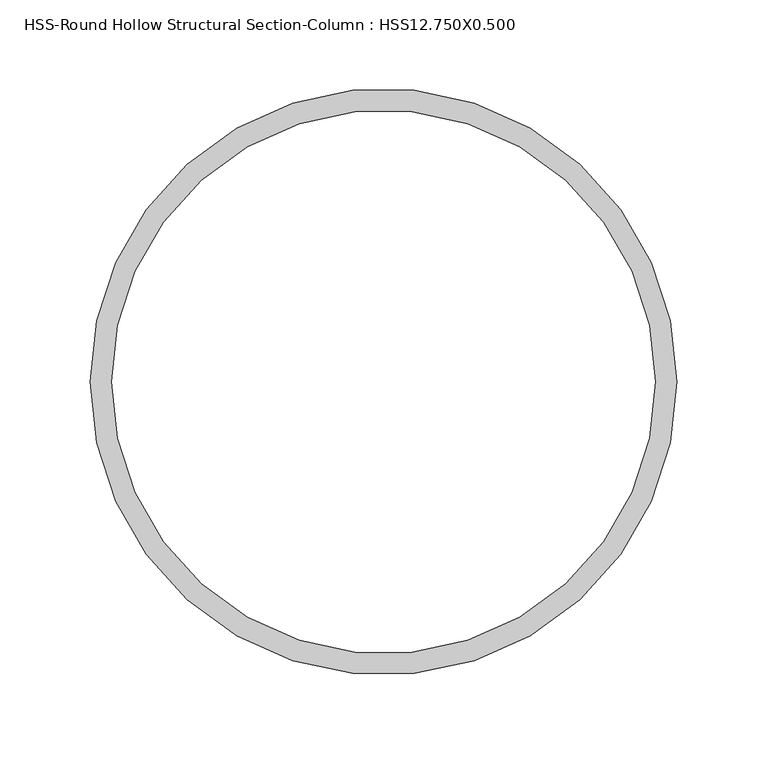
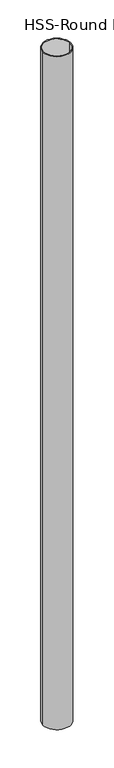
"""IFC4 building model written with IfcOpenShell, lengths in millimetres: column geometry, HSS-Round Hollow Structural Section-Column : HSS12.750X0.500."""

from ifc_helpers import new_model, si_unit, point, frame, origin, origin_2d, place, context, project, spatial, circle_curve, trimmed, segment, composite_curve, outline, extrude, source, transform, mapped, element, save


def hss_round_hollow_structural_section_column_hss12_750x0_500_ca34f2c9(model_context):
    return source(origin(), model_context, "Body", "SweptSolid", [
        extrude(outline(composite_curve([segment(trimmed(circle_curve(origin_2d(), 161.925), [point((-161.925, 0.0))], [point((161.925, 0.0))], False, "CARTESIAN"), True, "CONTINUOUS"), segment(trimmed(circle_curve(origin_2d(), 161.925), [point((161.925, 0.0))], [point((-161.925, 0.0))], False, "CARTESIAN"), True, "CONTINUOUS")], self_intersect=False), holes=[composite_curve([segment(trimmed(circle_curve(origin_2d(), 150.114), [point((-150.114, 0.0))], [point((150.114, 0.0))], True, "CARTESIAN"), True, "CONTINUOUS"), segment(trimmed(circle_curve(origin_2d(), 150.114), [point((150.114, 0.0))], [point((-150.114, 0.0))], True, "CARTESIAN"), True, "CONTINUOUS")], self_intersect=False)]), frame((0.0, 0.0, 12065.0), z_axis=(0.0, 0.0, 1.0), x_axis=(1.0, 0.0, 0.0)), (0.0, 0.0, 1.0), 8280.4),
    ])


if __name__ == "__main__":
    model = new_model("IFC4")
    model_context = context("Model", 3, world=origin())
    ifc_project = project(units=[si_unit("LENGTHUNIT", "METRE", prefix="MILLI")], contexts=[model_context])
    site = spatial("IfcSite", under=ifc_project)
    building = spatial("IfcBuilding", under=site)
    placement = place(None, origin())
    hss_round_hollow_structural_section_column_hss12_750x0_500_shape = hss_round_hollow_structural_section_column_hss12_750x0_500_ca34f2c9(model_context)
    element("IfcColumn", 1, ObjectType="HSS-Round Hollow Structural Section-Column : HSS12.750X0.500", at=placement, inside=building, context=model_context, shape_type="MappedRepresentation", body=[
        mapped(hss_round_hollow_structural_section_column_hss12_750x0_500_shape, transform((0.0, 0.0, 0.0), x_axis=(1.0, 0.0, 0.0), y_axis=(0.0, 1.0, 0.0), z_axis=(0.0, 0.0, 1.0))),
    ])
    save(model, "model.ifc")
